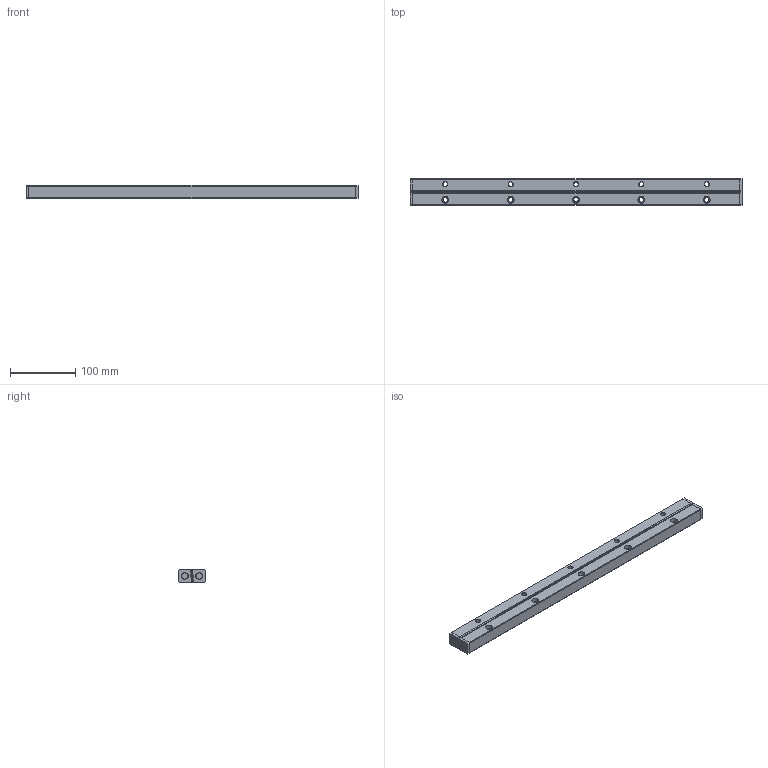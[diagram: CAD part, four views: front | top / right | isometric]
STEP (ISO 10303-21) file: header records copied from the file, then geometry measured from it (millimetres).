
FILE_DESCRIPTION(/* description */ ('Unknown'),/* implementation_level */ '2;1');
FILE_NAME(/* name */ 'VR9-500x25Z',/* time_stamp */ '2025-06-12T09:18:49+08:00',/* author */ ('Unknown'),/* organization */ ('Unknown'),/* preprocessor_version */ 'ST-DEVELOPER v18.102',/* originating_system */ 'Solid Edge',/* authorisation */ 'Unknown');
FILE_SCHEMA (('AUTOMOTIVE_DESIGN {1 0 10303 214 3 1 1}'));
Length unit declared in the file: millimetre
Products named in the file (3): VR9-500x25Z; VR9-500_25Z Roller guide; VR9-500_25Z Roller cage
Assembly tree (3 placements, depth 2):
  VR9-500x25Z
    VR9-500_25Z Roller guide  x2
    VR9-500_25Z Roller cage
Bounding box: 508 x 40 x 20 mm (x, y, z)
Volume: 363419.9 mm3; surface area: 106215.9 mm2
Topology: 3 solids, 3 shells, 413 faces, 1101 edges, 708 vertices
Faces by surface type: plane 294, cone 74, cylinder 45
Full cylindrical faces by diameter (mm): 6.8 x10, 9 x25, 10.5 x10
Entity records: 10744 total; most frequent: CARTESIAN_POINT 1818, DIRECTION 1793, ORIENTED_EDGE 1706, EDGE_CURVE 853, LINE 619, VECTOR 619, VERTEX_POINT 612, AXIS2_PLACEMENT_3D 587
